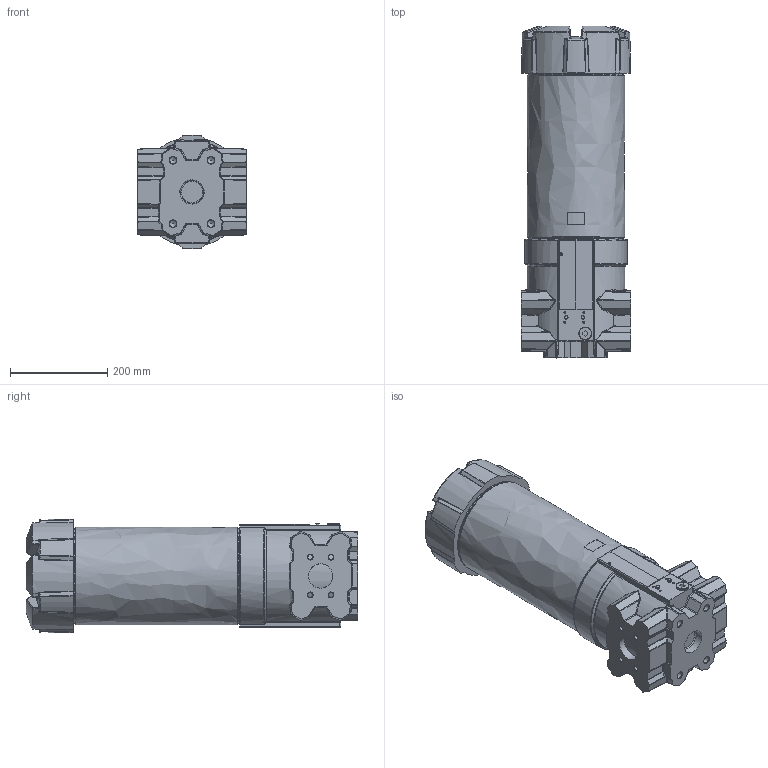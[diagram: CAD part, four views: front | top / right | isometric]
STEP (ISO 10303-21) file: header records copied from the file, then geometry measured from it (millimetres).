
FILE_DESCRIPTION((''),'2;1');
FILE_NAME('U:\Users\r.stiegele\28410301(302192).stp', '2013-11-29T09:22:13',('User'),('SDRC'),'I-DEAS Master Series 9','UNIX', 'Yes');
FILE_SCHEMA(('AUTOMOTIVE_DESIGN { 1 0 10303 214 1 1 1 1 }'));
Length unit declared in the file: millimetre
Products named in the file (1): 28410301(302192)
Bounding box: 224 x 681.02 x 233.64 mm (x, y, z)
Volume: 22575572 mm3; surface area: 598843.5 mm2
Topology: 1 solids, 8 shells, 1063 faces, 2518 edges, 1411 vertices
Faces by surface type: bspline 1063
Entity records: 40551 total; most frequent: CARTESIAN_POINT 26623, ORIENTED_EDGE 4844, EDGE_CURVE 2422, B_SPLINE_CURVE_WITH_KNOTS 1544, VERTEX_POINT 1411, EDGE_LOOP 1107, FACE_OUTER_BOUND 1063, ADVANCED_FACE 1063
